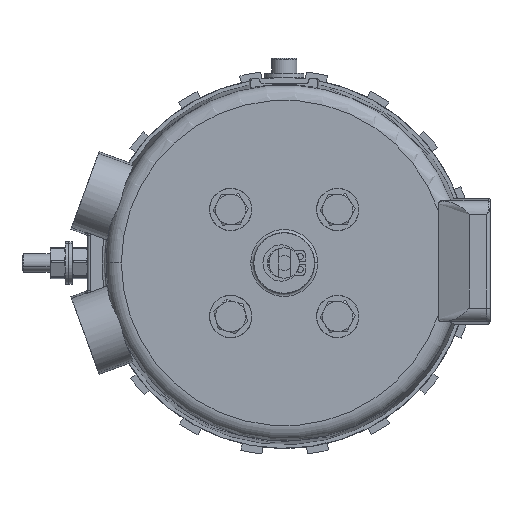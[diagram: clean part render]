
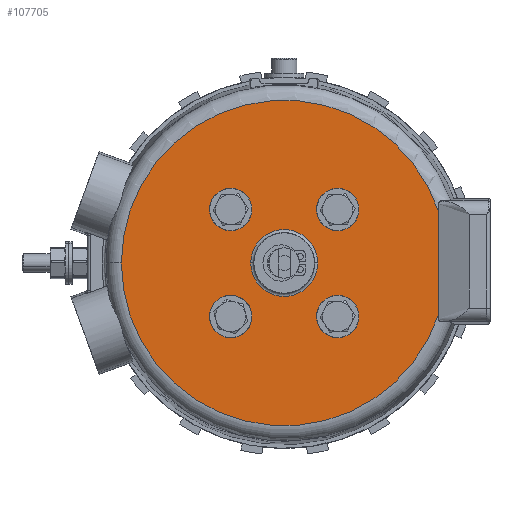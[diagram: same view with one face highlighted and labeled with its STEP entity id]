
A CAD part, front view. The second image highlights one B-rep face of the part: STEP entity #107705.
In plain terms, the highlighted planar face has unit normal (0, -1, 0).
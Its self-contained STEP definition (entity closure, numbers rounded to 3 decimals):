
#1148 = ORIENTED_EDGE ( 'NONE', *, *, #64822, .F. ) ;
#1375 = VERTEX_POINT ( 'NONE', #31442 ) ;
#1439 = EDGE_LOOP ( 'NONE', ( #1148, #59449 ) ) ;
#1824 = VERTEX_POINT ( 'NONE', #43024 ) ;
#2193 = AXIS2_PLACEMENT_3D ( 'NONE', #39830, #22889, #90894 ) ;
#2632 = DIRECTION ( 'NONE',  ( -1., 0., 0. ) ) ;
#2787 = AXIS2_PLACEMENT_3D ( 'NONE', #104105, #28388, #95979 ) ;
#3325 = CARTESIAN_POINT ( 'NONE',  ( -131.729, -18.528, -25.068 ) ) ;
#3493 = CIRCLE ( 'NONE', #85214, 7. ) ;
#3996 = EDGE_CURVE ( 'NONE', #55775, #69219, #63489, .T. ) ;
#4185 = EDGE_LOOP ( 'NONE', ( #34240, #24516 ) ) ;
#4332 = CARTESIAN_POINT ( 'NONE',  ( -125.105, -18.528, -7.39 ) ) ;
#5280 = AXIS2_PLACEMENT_3D ( 'NONE', #90691, #32300, #91070 ) ;
#5873 = CARTESIAN_POINT ( 'NONE',  ( -124.729, -18.528, 10.288 ) ) ;
#7029 = EDGE_CURVE ( 'NONE', #107306, #10987, #67840, .T. ) ;
#7109 = CARTESIAN_POINT ( 'NONE',  ( -138.729, -18.528, -25.068 ) ) ;
#8200 = AXIS2_PLACEMENT_3D ( 'NONE', #48794, #31188, #55784 ) ;
#8445 = CIRCLE ( 'NONE', #107005, 7. ) ;
#9060 = CIRCLE ( 'NONE', #70699, 11.054 ) ;
#10987 = VERTEX_POINT ( 'NONE', #72256 ) ;
#11558 = ORIENTED_EDGE ( 'NONE', *, *, #71704, .F. ) ;
#13204 = EDGE_CURVE ( 'NONE', #55775, #1375, #60014, .T. ) ;
#14081 = CARTESIAN_POINT ( 'NONE',  ( -89.374, -18.528, 10.288 ) ) ;
#15329 = PLANE ( 'NONE',  #5280 ) ;
#16723 = VECTOR ( 'NONE', #27499, 1000. ) ;
#18849 = DIRECTION ( 'NONE',  ( 0., -1., 0. ) ) ;
#20279 = DIRECTION ( 'NONE',  ( 0., -1., 0. ) ) ;
#20902 = CARTESIAN_POINT ( 'NONE',  ( -102.998, -18.528, -7.39 ) ) ;
#22889 = DIRECTION ( 'NONE',  ( 0., -1., 0. ) ) ;
#23066 = ORIENTED_EDGE ( 'NONE', *, *, #13204, .T. ) ;
#24516 = ORIENTED_EDGE ( 'NONE', *, *, #82210, .F. ) ;
#25896 = EDGE_CURVE ( 'NONE', #109192, #1824, #8445, .T. ) ;
#26797 = ORIENTED_EDGE ( 'NONE', *, *, #98462, .F. ) ;
#27499 = DIRECTION ( 'NONE',  ( 0., 0., 1. ) ) ;
#28388 = DIRECTION ( 'NONE',  ( 0., 1., 0. ) ) ;
#28790 = DIRECTION ( 'NONE',  ( 1., 0., 0. ) ) ;
#29312 = VERTEX_POINT ( 'NONE', #4332 ) ;
#30132 = CARTESIAN_POINT ( 'NONE',  ( -96.374, -18.528, 10.288 ) ) ;
#31188 = DIRECTION ( 'NONE',  ( 0., -1., 0. ) ) ;
#31418 = CIRCLE ( 'NONE', #52190, 11.054 ) ;
#31442 = CARTESIAN_POINT ( 'NONE',  ( -63.052, -18.528, 9.702 ) ) ;
#32300 = DIRECTION ( 'NONE',  ( 0., -1., 0. ) ) ;
#33462 = CIRCLE ( 'NONE', #56895, 53.788 ) ;
#33561 = EDGE_LOOP ( 'NONE', ( #11558, #48660 ) ) ;
#34240 = ORIENTED_EDGE ( 'NONE', *, *, #7029, .F. ) ;
#34526 = AXIS2_PLACEMENT_3D ( 'NONE', #30132, #97395, #46990 ) ;
#34726 = DIRECTION ( 'NONE',  ( -1., 0., 0. ) ) ;
#35085 = DIRECTION ( 'NONE',  ( 1., 0., 0. ) ) ;
#38279 = VERTEX_POINT ( 'NONE', #14081 ) ;
#39137 = EDGE_CURVE ( 'NONE', #38279, #71508, #94962, .T. ) ;
#39830 = CARTESIAN_POINT ( 'NONE',  ( -131.729, -18.528, 10.288 ) ) ;
#40735 = ORIENTED_EDGE ( 'NONE', *, *, #3996, .F. ) ;
#41783 = VERTEX_POINT ( 'NONE', #7109 ) ;
#43024 = CARTESIAN_POINT ( 'NONE',  ( -89.374, -18.528, -25.068 ) ) ;
#43099 = ORIENTED_EDGE ( 'NONE', *, *, #103206, .T. ) ;
#46990 = DIRECTION ( 'NONE',  ( 1., 0., 0. ) ) ;
#48660 = ORIENTED_EDGE ( 'NONE', *, *, #25896, .F. ) ;
#48794 = CARTESIAN_POINT ( 'NONE',  ( -131.729, -18.528, -25.068 ) ) ;
#49136 = CARTESIAN_POINT ( 'NONE',  ( -131.729, -18.528, 10.288 ) ) ;
#49445 = VERTEX_POINT ( 'NONE', #20902 ) ;
#49563 = FACE_BOUND ( 'NONE', #70784, .T. ) ;
#50321 = DIRECTION ( 'NONE',  ( 0., -1., 0. ) ) ;
#50379 = CIRCLE ( 'NONE', #2193, 7. ) ;
#50663 = DIRECTION ( 'NONE',  ( 1., 0., 0. ) ) ;
#51062 = CARTESIAN_POINT ( 'NONE',  ( -63.052, -18.528, -24.482 ) ) ;
#52190 = AXIS2_PLACEMENT_3D ( 'NONE', #70260, #86445, #61392 ) ;
#52291 = CARTESIAN_POINT ( 'NONE',  ( -96.374, -18.528, -25.068 ) ) ;
#53053 = DIRECTION ( 'NONE',  ( 0., 1., 0. ) ) ;
#55737 = AXIS2_PLACEMENT_3D ( 'NONE', #49136, #66036, #74527 ) ;
#55775 = VERTEX_POINT ( 'NONE', #51062 ) ;
#55784 = DIRECTION ( 'NONE',  ( 1., 0., 0. ) ) ;
#56895 = AXIS2_PLACEMENT_3D ( 'NONE', #103831, #53053, #2632 ) ;
#59449 = ORIENTED_EDGE ( 'NONE', *, *, #87288, .F. ) ;
#60014 = LINE ( 'NONE', #70114, #16723 ) ;
#60177 = CARTESIAN_POINT ( 'NONE',  ( -96.374, -18.528, -25.068 ) ) ;
#61184 = FACE_BOUND ( 'NONE', #4185, .T. ) ;
#61346 = CIRCLE ( 'NONE', #34526, 7. ) ;
#61392 = DIRECTION ( 'NONE',  ( -1., 0., 0. ) ) ;
#62683 = CARTESIAN_POINT ( 'NONE',  ( -167.839, -18.528, -7.39 ) ) ;
#63489 = CIRCLE ( 'NONE', #2787, 53.788 ) ;
#63519 = EDGE_LOOP ( 'NONE', ( #97341, #77045 ) ) ;
#64732 = ORIENTED_EDGE ( 'NONE', *, *, #105719, .T. ) ;
#64822 = EDGE_CURVE ( 'NONE', #107317, #41783, #3493, .T. ) ;
#65223 = EDGE_CURVE ( 'NONE', #71508, #38279, #61346, .T. ) ;
#66036 = DIRECTION ( 'NONE',  ( 0., -1., 0. ) ) ;
#67840 = CIRCLE ( 'NONE', #55737, 7. ) ;
#69219 = VERTEX_POINT ( 'NONE', #62683 ) ;
#70114 = CARTESIAN_POINT ( 'NONE',  ( -63.052, -18.528, -7.39 ) ) ;
#70260 = CARTESIAN_POINT ( 'NONE',  ( -114.052, -18.528, -7.39 ) ) ;
#70699 = AXIS2_PLACEMENT_3D ( 'NONE', #86114, #102685, #34726 ) ;
#70784 = EDGE_LOOP ( 'NONE', ( #64732, #43099 ) ) ;
#71191 = CIRCLE ( 'NONE', #8200, 7. ) ;
#71508 = VERTEX_POINT ( 'NONE', #90596 ) ;
#71704 = EDGE_CURVE ( 'NONE', #1824, #109192, #105452, .T. ) ;
#71794 = FACE_BOUND ( 'NONE', #63519, .T. ) ;
#72256 = CARTESIAN_POINT ( 'NONE',  ( -138.729, -18.528, 10.288 ) ) ;
#74527 = DIRECTION ( 'NONE',  ( 1., 0., 0. ) ) ;
#75575 = DIRECTION ( 'NONE',  ( 0., -1., 0. ) ) ;
#77045 = ORIENTED_EDGE ( 'NONE', *, *, #65223, .F. ) ;
#79922 = CARTESIAN_POINT ( 'NONE',  ( -103.374, -18.528, -25.068 ) ) ;
#82210 = EDGE_CURVE ( 'NONE', #10987, #107306, #50379, .T. ) ;
#85214 = AXIS2_PLACEMENT_3D ( 'NONE', #3325, #20279, #28790 ) ;
#85716 = AXIS2_PLACEMENT_3D ( 'NONE', #52291, #18849, #35085 ) ;
#86114 = CARTESIAN_POINT ( 'NONE',  ( -114.052, -18.528, -7.39 ) ) ;
#86445 = DIRECTION ( 'NONE',  ( 0., 1., 0. ) ) ;
#87288 = EDGE_CURVE ( 'NONE', #41783, #107317, #71191, .T. ) ;
#88851 = FACE_BOUND ( 'NONE', #33561, .T. ) ;
#90596 = CARTESIAN_POINT ( 'NONE',  ( -103.374, -18.528, 10.288 ) ) ;
#90691 = CARTESIAN_POINT ( 'NONE',  ( -167.839, -18.528, -7.39 ) ) ;
#90894 = DIRECTION ( 'NONE',  ( 1., 0., 0. ) ) ;
#91070 = DIRECTION ( 'NONE',  ( 1., 0., 0. ) ) ;
#91175 = CARTESIAN_POINT ( 'NONE',  ( -124.729, -18.528, -25.068 ) ) ;
#92857 = DIRECTION ( 'NONE',  ( 1., 0., 0. ) ) ;
#94171 = FACE_BOUND ( 'NONE', #1439, .T. ) ;
#94300 = FACE_OUTER_BOUND ( 'NONE', #94932, .T. ) ;
#94932 = EDGE_LOOP ( 'NONE', ( #23066, #26797, #40735 ) ) ;
#94962 = CIRCLE ( 'NONE', #95827, 7. ) ;
#95827 = AXIS2_PLACEMENT_3D ( 'NONE', #109067, #75575, #92857 ) ;
#95979 = DIRECTION ( 'NONE',  ( -1., 0., 0. ) ) ;
#97341 = ORIENTED_EDGE ( 'NONE', *, *, #39137, .F. ) ;
#97395 = DIRECTION ( 'NONE',  ( 0., -1., 0. ) ) ;
#98462 = EDGE_CURVE ( 'NONE', #69219, #1375, #33462, .T. ) ;
#102685 = DIRECTION ( 'NONE',  ( 0., 1., 0. ) ) ;
#103206 = EDGE_CURVE ( 'NONE', #49445, #29312, #31418, .T. ) ;
#103831 = CARTESIAN_POINT ( 'NONE',  ( -114.052, -18.528, -7.39 ) ) ;
#104105 = CARTESIAN_POINT ( 'NONE',  ( -114.052, -18.528, -7.39 ) ) ;
#105452 = CIRCLE ( 'NONE', #85716, 7. ) ;
#105719 = EDGE_CURVE ( 'NONE', #29312, #49445, #9060, .T. ) ;
#107005 = AXIS2_PLACEMENT_3D ( 'NONE', #60177, #50321, #50663 ) ;
#107306 = VERTEX_POINT ( 'NONE', #5873 ) ;
#107317 = VERTEX_POINT ( 'NONE', #91175 ) ;
#107705 = ADVANCED_FACE ( 'NONE', ( #94300, #94171, #88851, #71794, #61184, #49563 ), #15329, .T. ) ;
#109067 = CARTESIAN_POINT ( 'NONE',  ( -96.374, -18.528, 10.288 ) ) ;
#109192 = VERTEX_POINT ( 'NONE', #79922 ) ;
